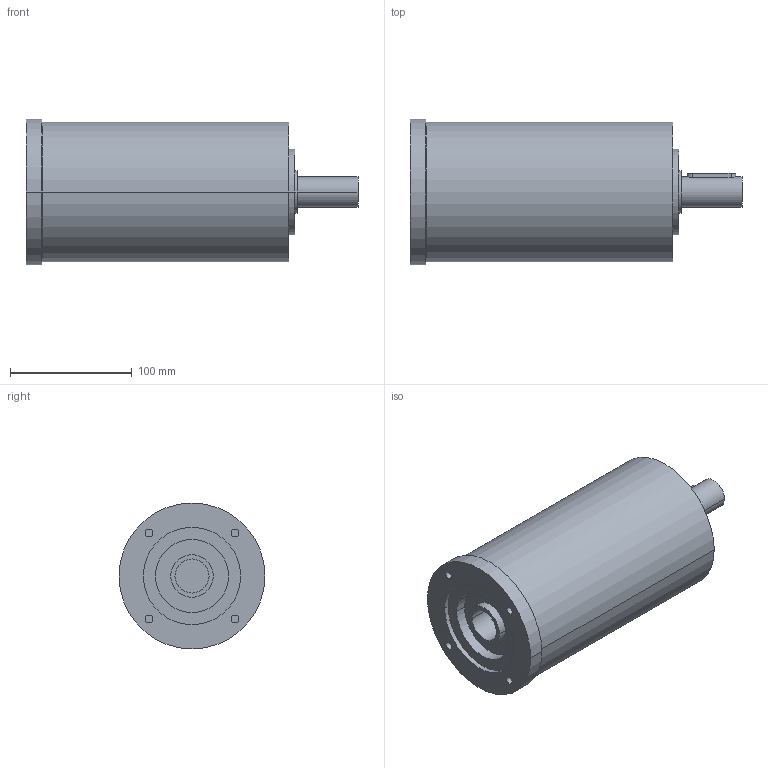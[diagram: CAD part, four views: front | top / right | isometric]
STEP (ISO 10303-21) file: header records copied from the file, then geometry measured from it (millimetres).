
FILE_DESCRIPTION(('CoCreate Modeling STEP Export'),'2;1');
FILE_NAME('GPR125_ig-48-64-80-100-140-196-245-343_25_B14_28_P05.stp','2014-08-26T14:22:46',(''),(''),'CoCreate Modeling STEP processor for AP214 (Solid Model)','CoCreate Modeling 16.00C 25-Feb-2009 (C) Parametric Technology GmbH','');
FILE_SCHEMA(('AUTOMOTIVE_DESIGN { 1 0 10303 214 1 1 1 1 }'));
Length unit declared in the file: millimetre
Products named in the file (2): GPR125_ig-48-64-80-100-140-196-245-343_25_B14_28_P05
Assembly tree (1 placements, depth 2):
  GPR125_ig-48-64-80-100-140-196-245-343_25_B14_28_P05
    GPR125_ig-48-64-80-100-140-196-245-343_25_B14_28_P05
Bounding box: 273 x 120 x 120 mm (x, y, z)
Volume: 2220660.9 mm3; surface area: 119431.3 mm2
Topology: 1 solids, 1 shells, 75 faces, 190 edges, 136 vertices
Faces by surface type: cylinder 46, plane 25, cone 4
Entity records: 1925 total; most frequent: ORIENTED_EDGE 376, CARTESIAN_POINT 357, DIRECTION 250, EDGE_CURVE 188, VERTEX_POINT 136, AXIS2_PLACEMENT_3D 97, EDGE_LOOP 96, FACE_OUTER_BOUND 75
